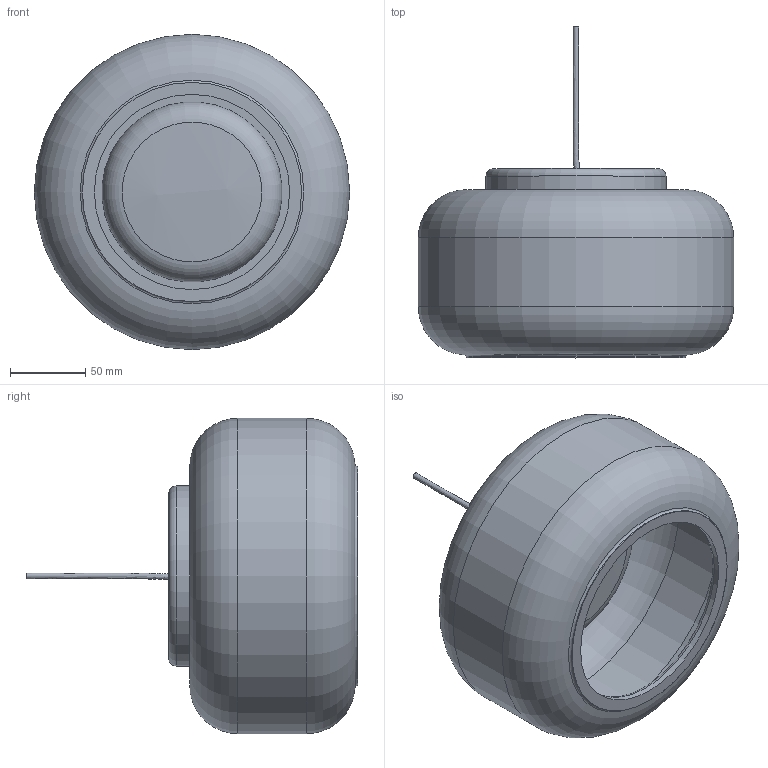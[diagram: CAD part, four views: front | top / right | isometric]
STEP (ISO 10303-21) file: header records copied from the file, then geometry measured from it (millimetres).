
FILE_DESCRIPTION(/* description */ (''),/* implementation_level */ '2;1');
FILE_NAME(/* name */ 'Trufa.step',/* time_stamp */ '2023-01-26T16:29:42-06:00',/* author */ (''),/* organization */ (''),/* preprocessor_version */ 'ST-DEVELOPER v19.2',/* originating_system */ 'Autodesk Translation Framework v11.17.0.187',/* authorisation */ '');
FILE_SCHEMA (('AUTOMOTIVE_DESIGN { 1 0 10303 214 3 1 1 }'));
Length unit declared in the file: millimetre
Products named in the file (22): canopy 01; Trufa-VS0051-V40-technic v44; top-part; cable holder (1); magnet; metal spinng; cable fixation; 92095A504_Button Head Hex Drive Screw; rubber-top; cable; 91294A125_Black-Oxide Alloy Steel Hex Drive Flat Head Screw (1); distance tube; cable-fixation v2; 92095A179_Button Head Hex Drive Screw; 98886A826_High-Strength High-Temperature PEEK Hex Nut; 94500A266_316 Stainless Steel Button Head Hex Drive Screws; Trufa-VS0051-V20-MG1 v4; Trufa-VS0051-V19-glass-cover v1; fixing-screw-M3 v1; Trufa-VS0051-V34-plastic-ring v2; Trufa-VS0051-V39-technic_Trufa-VS0051-V37-technic_socket holder v6 v6; 91294A012_Black-Oxide Alloy Steel Hex Drive Flat Head Screw
Assembly tree (34 placements, depth 5):
  canopy 01
    Trufa-VS0051-V40-technic v44
      top-part
        cable holder (1)
          magnet
        metal spinng
        cable fixation
        distance tube  x3
        92095A504_Button Head Hex Drive Screw  x4
        rubber-top
        cable
        91294A125_Black-Oxide Alloy Steel Hex Drive Flat Head Screw (1)  x3
        cable-fixation v2
        92095A179_Button Head Hex Drive Screw  x2
        94500A266_316 Stainless Steel Button Head Hex Drive Screws  x3
        98886A826_High-Strength High-Temperature PEEK Hex Nut  x3
      Trufa-VS0051-V20-MG1 v4
      Trufa-VS0051-V19-glass-cover v1
        fixing-screw-M3 v1
      Trufa-VS0051-V34-plastic-ring v2
      Trufa-VS0051-V39-technic_Trufa-VS0051-V37-technic_socket holder v6 v6
      91294A012_Black-Oxide Alloy Steel Hex Drive Flat Head Screw  x2
Bounding box: 210 x 221 x 210 mm (x, y, z)
Volume: 688257.1 mm3; surface area: 279366.4 mm2
Topology: 4 solids, 4 shells, 287 faces, 755 edges, 485 vertices
Faces by surface type: cylinder 119, plane 114, sphere 18, bspline 17, torus 16, cone 3
Full cylindrical faces by diameter (mm): 86.023 x1, 90 x1, 110 x1, 116 x1, 117.6 x1, 120 x2, 130 x1, 146 x1, 200 x1, 210 x1
Entity records: 10883 total; most frequent: CARTESIAN_POINT 2693, DIRECTION 1735, ORIENTED_EDGE 1510, EDGE_CURVE 755, AXIS2_PLACEMENT_3D 671, VERTEX_POINT 485, LINE 393, VECTOR 393
